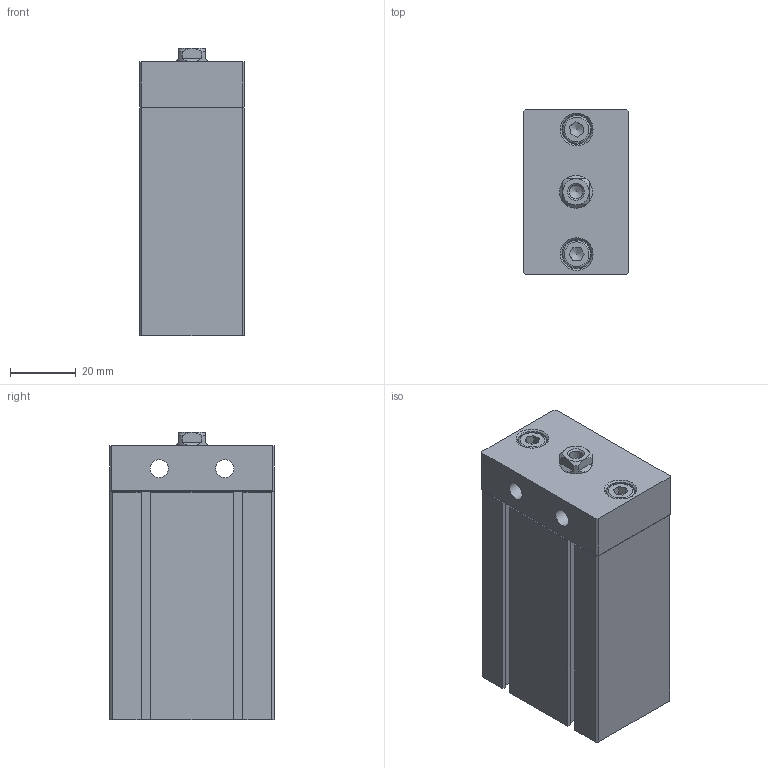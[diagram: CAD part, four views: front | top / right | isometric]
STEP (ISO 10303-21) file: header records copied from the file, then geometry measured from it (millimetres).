
FILE_DESCRIPTION((''),'2;1');
FILE_NAME('I:\3D電子目錄\氣缸\ND\ND\ND25\ND25x40.stp','2007-07-24T19:03:59',('Administrator'),(''),'Autodesk Inventor 11','Autodesk Inventor 11','');
FILE_SCHEMA(('AUTOMOTIVE_DESIGN { 1 0 10303 214 1 1 1 1 }'));
Length unit declared in the file: millimetre
Products named in the file (4): ND25; ISO 4762 M5 x 12; R 形環 28
Assembly tree (4 placements, depth 2):
  ND25
    ND25
    ISO 4762 M5 x 12  x2
    R 形環 28
Bounding box: 32 x 50.1 x 87.5 mm (x, y, z)
Volume: 123101.1 mm3; surface area: 25443.1 mm2
Topology: 5 solids, 5 shells, 167 faces, 389 edges, 247 vertices
Faces by surface type: plane 105, cylinder 25, cone 18, bspline 16, torus 3
Full cylindrical faces by diameter (mm): 1.5 x2, 1.9 x2, 5 x2, 5.5 x2, 8.5 x2, 9 x2, 17 x1, 28 x1, 29.4 x1
Entity records: 4347 total; most frequent: CARTESIAN_POINT 939, DIRECTION 678, ORIENTED_EDGE 626, EDGE_CURVE 313, AXIS2_PLACEMENT_3D 234, VERTEX_POINT 221, EDGE_LOOP 214, VECTOR 210
